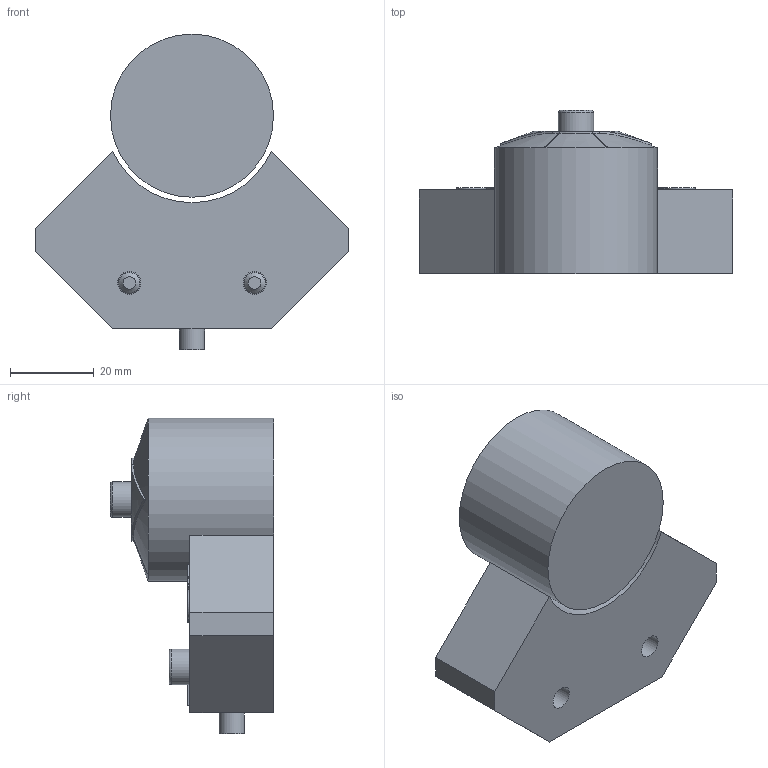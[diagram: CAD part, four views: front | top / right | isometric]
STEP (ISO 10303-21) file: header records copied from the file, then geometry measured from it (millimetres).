
FILE_DESCRIPTION(('STEP AP242'), '1');
FILE_NAME('ALS200D Ìàãíèòíûé ïåðåêëþ÷àòåëü DN.ru', '2026-04-22T15:51:06', ('R2D2'), (''), 'C3D Converter', 'C3D Toolkit', '');
FILE_SCHEMA(('AP242_MANAGED_MODEL_BASED_3D_ENGINEERING_MIM_LF { 1 0 10303 442 1 1 4 }'));
Length unit declared in the file: millimetre
Products named in the file (1): ALS200D
Bounding box: 75 x 39 x 75.5 mm (x, y, z)
Volume: 82146.1 mm3; surface area: 16232.9 mm2
Topology: 2 solids, 2 shells, 556 faces, 1493 edges, 992 vertices
Faces by surface type: plane 314, extrusion 212, cylinder 14, cone 11, torus 5
Full cylindrical faces by diameter (mm): 5 x2, 5.5 x2, 6 x1, 7 x2, 8.5 x3, 39 x1
Entity records: 23014 total; most frequent: CARTESIAN_POINT 5483, ORIENTED_EDGE 2934, DIRECTION 1936, EDGE_CURVE 1467, VECTOR 1158, VERTEX_POINT 989, LINE 946, B_SPLINE_CURVE_WITH_KNOTS 689
